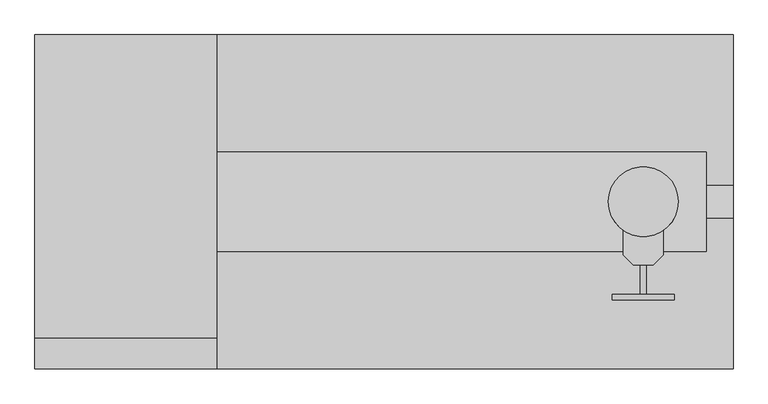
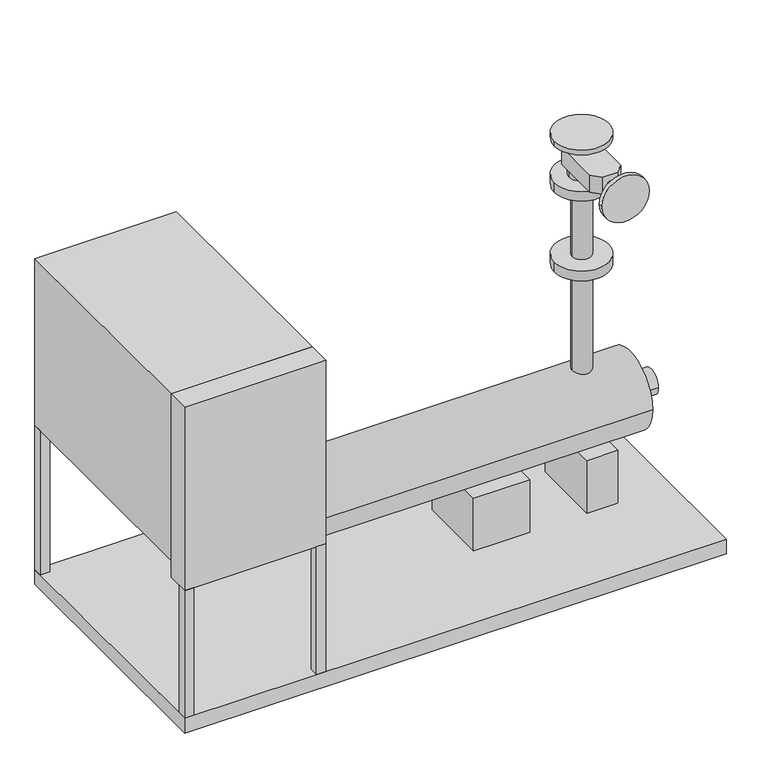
"""IFC4 building model written with IfcOpenShell, lengths in millimetres: sanitary terminal geometry, 02080_PFU_消火ポンプユニット_単段 : 65φ."""

from ifc_helpers import new_model, si_unit, point, frame, frame_2d, origin, place, context, project, spatial, polyline, circle_curve, trimmed, segment, composite_curve, outline, extrude, source, transform, mapped, element, save


def sanitary_terminal_b2eb0a7e(model_context):
    return source(origin(), model_context, "Body", "SweptSolid", [
        extrude(outline(polyline([(385.1096016, 335.0), (385.1096016, -335.0), (-1015.0, -335.0), (-1015.0, 335.0), (385.1096016, 335.0)])), frame((0.0, 0.0, 300.0), z_axis=(0.0, 0.0, 1.0), x_axis=(1.0, 0.0, 0.0)), (0.0, 0.0, 1.0), 40.0),
        extrude(outline(composite_curve([segment(trimmed(circle_curve(frame_2d((0.0, 570.0)), 32.5), [point((-32.5, 570.0))], [point((32.5, 570.0))], False, "CARTESIAN"), True, "CONTINUOUS"), segment(trimmed(circle_curve(frame_2d((0.0, 570.0)), 32.5), [point((32.5, 570.0))], [point((-32.5, 570.0))], False, "CARTESIAN"), True, "CONTINUOUS")], self_intersect=False)), frame((331.0, 0.0, 0.0), z_axis=(1.0, 0.0, 0.0), x_axis=(0.0, 1.0, 0.0)), (0.0, 0.0, 1.0), 54.0),
        extrude(outline(composite_curve([segment(trimmed(circle_curve(frame_2d((0.0, 570.0)), 99.875), [point((-99.875, 570.0))], [point((99.875, 570.0))], False, "CARTESIAN"), True, "CONTINUOUS"), segment(trimmed(circle_curve(frame_2d((0.0, 570.0)), 99.875), [point((99.875, 570.0))], [point((-99.875, 570.0))], False, "CARTESIAN"), True, "CONTINUOUS")], self_intersect=False)), frame((-815.0, 0.0, 0.0), z_axis=(1.0, 0.0, 0.0), x_axis=(0.0, 1.0, 0.0)), (0.0, 0.0, 1.0), 1146.0),
        extrude(outline(composite_curve([segment(trimmed(circle_curve(frame_2d((1249.7652174, 205.0)), 62.0), [point((1249.7652174, 143.0))], [point((1249.7652174, 267.0))], False, "CARTESIAN"), True, "CONTINUOUS"), segment(trimmed(circle_curve(frame_2d((1249.7652174, 205.0)), 62.0), [point((1249.7652174, 267.0))], [point((1249.7652174, 143.0))], False, "CARTESIAN"), True, "CONTINUOUS")], self_intersect=False)), frame((0.0, -196.8, 0.0), z_axis=(0.0, 1.0, 0.0), x_axis=(0.0, 0.0, 1.0)), (0.0, 0.0, 1.0), 11.2),
        extrude(outline(composite_curve([segment(trimmed(circle_curve(frame_2d((1249.7652174, 205.0)), 6.0), [point((1249.7652174, 199.0))], [point((1249.7652174, 211.0))], False, "CARTESIAN"), True, "CONTINUOUS"), segment(trimmed(circle_curve(frame_2d((1249.7652174, 205.0)), 6.0), [point((1249.7652174, 211.0))], [point((1249.7652174, 199.0))], False, "CARTESIAN"), True, "CONTINUOUS")], self_intersect=False)), frame((0.0, -185.6, 0.0), z_axis=(0.0, 1.0, 0.0), x_axis=(0.0, 0.0, 1.0)), (0.0, 0.0, 1.0), 59.0347534),
        extrude(outline(polyline([(17.1034483, 92.65), (17.1034483, -92.65), (-128.0, -92.65), (-128.0, 92.65), (17.1034483, 92.65)])), frame((0.0, 0.0, 340.0), z_axis=(0.0, 0.0, 1.0), x_axis=(1.0, 0.0, 0.0)), (0.0, 0.0, 1.0), 144.5),
        extrude(outline(composite_curve([segment(trimmed(circle_curve(frame_2d((205.0, 0.0)), 24.5547837), [point((180.4452163, 0.0))], [point((229.5547837, 0.0))], False, "CARTESIAN"), True, "CONTINUOUS"), segment(trimmed(circle_curve(frame_2d((205.0, 0.0)), 24.5547837), [point((229.5547837, 0.0))], [point((180.4452163, 0.0))], False, "CARTESIAN"), True, "CONTINUOUS")], self_intersect=False)), frame((0.0, 0.0, 484.5), z_axis=(0.0, 0.0, 1.0), x_axis=(1.0, 0.0, 0.0)), (0.0, 0.0, 1.0), 688.0045554),
        extrude(outline(composite_curve([segment(trimmed(circle_curve(frame_2d((205.0, 0.0)), 32.0), [point((173.0, 0.0))], [point((237.0, 0.0))], False, "CARTESIAN"), True, "CONTINUOUS"), segment(trimmed(circle_curve(frame_2d((205.0, 0.0)), 32.0), [point((237.0, 0.0))], [point((173.0, 0.0))], False, "CARTESIAN"), True, "CONTINUOUS")], self_intersect=False)), frame((0.0, 0.0, 1200.7095652), z_axis=(0.0, 0.0, 1.0), x_axis=(1.0, 0.0, 0.0)), (0.0, 0.0, 1.0), 98.1113043),
        extrude(outline(composite_curve([segment(trimmed(circle_curve(frame_2d((205.0, 0.0)), 70.0), [point((135.0, 0.0))], [point((275.0, 0.0))], False, "CARTESIAN"), True, "CONTINUOUS"), segment(trimmed(circle_curve(frame_2d((205.0, 0.0)), 70.0), [point((275.0, 0.0))], [point((135.0, 0.0))], False, "CARTESIAN"), True, "CONTINUOUS")], self_intersect=False)), frame((0.0, 0.0, 954.6991304), z_axis=(0.0, 0.0, 1.0), x_axis=(1.0, 0.0, 0.0)), (0.0, 0.0, 1.0), 26.3582609),
        extrude(outline(composite_curve([segment(trimmed(circle_curve(frame_2d((205.0, 0.0)), 70.0), [point((135.0, 0.0))], [point((275.0, 0.0))], False, "CARTESIAN"), True, "CONTINUOUS"), segment(trimmed(circle_curve(frame_2d((205.0, 0.0)), 70.0), [point((275.0, 0.0))], [point((135.0, 0.0))], False, "CARTESIAN"), True, "CONTINUOUS")], self_intersect=False)), frame((0.0, 0.0, 1172.5045554), z_axis=(0.0, 0.0, 1.0), x_axis=(1.0, 0.0, 0.0)), (0.0, 0.0, 1.0), 26.3582609),
        extrude(outline(polyline([(245.0, 92.65), (245.0, -92.65), (165.0, -92.65), (165.0, 92.65), (245.0, 92.65)])), frame((0.0, 0.0, 340.0), z_axis=(0.0, 0.0, 1.0), x_axis=(1.0, 0.0, 0.0)), (0.0, 0.0, 1.0), 144.5),
        extrude(outline(polyline([(225.0001607, 39.3786621), (245.0, 19.3788228), (245.0, -106.5654073), (225.0001607, -126.5652466), (185.0000081, -126.5652466), (165.0, -106.5652384), (165.0, 19.378654), (185.0000081, 39.3786621), (225.0001607, 39.3786621)])), frame((0.0, 0.0, 1226.7), z_axis=(0.0, 0.0, 1.0), x_axis=(1.0, 0.0, 0.0)), (0.0, 0.0, 1.0), 46.1),
        extrude(outline(polyline([(-650.0, -311.0), (-650.0, -335.0), (-674.0, -335.0), (-674.0, -311.0), (-650.0, -311.0)])), frame((0.0, 0.0, 340.0), z_axis=(0.0, 0.0, 1.0), x_axis=(1.0, 0.0, 0.0)), (0.0, 0.0, 1.0), 349.4),
        extrude(outline(polyline([(-650.0, 335.0), (-650.0, 311.0), (-674.0, 311.0), (-674.0, 335.0), (-650.0, 335.0)])), frame((0.0, 0.0, 340.0), z_axis=(0.0, 0.0, 1.0), x_axis=(1.0, 0.0, 0.0)), (0.0, 0.0, 1.0), 395.0),
        extrude(outline(polyline([(-991.0, -311.0), (-991.0, -335.0), (-1015.0, -335.0), (-1015.0, -311.0), (-991.0, -311.0)])), frame((0.0, 0.0, 340.0), z_axis=(0.0, 0.0, 1.0), x_axis=(1.0, 0.0, 0.0)), (0.0, 0.0, 1.0), 349.4),
        extrude(outline(composite_curve([segment(trimmed(circle_curve(frame_2d((205.0, 0.0)), 70.0), [point((135.0, 0.0))], [point((275.0, 0.0))], False, "CARTESIAN"), True, "CONTINUOUS"), segment(trimmed(circle_curve(frame_2d((205.0, 0.0)), 70.0), [point((275.0, 0.0))], [point((135.0, 0.0))], False, "CARTESIAN"), True, "CONTINUOUS")], self_intersect=False)), frame((0.0, 0.0, 1298.8208696), z_axis=(0.0, 0.0, 1.0), x_axis=(1.0, 0.0, 0.0)), (0.0, 0.0, 1.0), 13.1791304),
        extrude(outline(polyline([(-650.0, -335.0), (-1015.0, -335.0), (-1015.0, -274.6), (-650.0, -274.6), (-650.0, -335.0)])), frame((0.0, 0.0, 689.4), z_axis=(0.0, 0.0, 1.0), x_axis=(1.0, 0.0, 0.0)), (0.0, 0.0, 1.0), 501.6),
        extrude(outline(polyline([(-650.0, 335.0), (-650.0, -274.6), (-1015.0, -274.6), (-1015.0, 335.0), (-650.0, 335.0)])), frame((0.0, 0.0, 735.0), z_axis=(0.0, 0.0, 1.0), x_axis=(1.0, 0.0, 0.0)), (0.0, 0.0, 1.0), 456.0),
        extrude(outline(polyline([(-991.0, 335.0), (-991.0, 311.0), (-1015.0, 311.0), (-1015.0, 335.0), (-991.0, 335.0)])), frame((0.0, 0.0, 340.0), z_axis=(0.0, 0.0, 1.0), x_axis=(1.0, 0.0, 0.0)), (0.0, 0.0, 1.0), 395.0),
    ])


if __name__ == "__main__":
    model = new_model("IFC4")
    model_context = context("Model", 3, world=origin())
    ifc_project = project(units=[si_unit("LENGTHUNIT", "METRE", prefix="MILLI")], contexts=[model_context])
    site = spatial("IfcSite", under=ifc_project)
    building = spatial("IfcBuilding", under=site)
    placement = place(None, origin())
    sanitary_terminal_shape = sanitary_terminal_b2eb0a7e(model_context)
    element("IfcSanitaryTerminal", 1, ObjectType="02080_PFU_消火ポンプユニット_単段 : 65φ", at=placement, inside=building, context=model_context, shape_type="MappedRepresentation", body=[
        mapped(sanitary_terminal_shape, transform((0.0, 0.0, 0.0), x_axis=(1.0, 0.0, 0.0), y_axis=(0.0, 1.0, 0.0), z_axis=(0.0, 0.0, 1.0))),
    ])
    save(model, "model.ifc")
